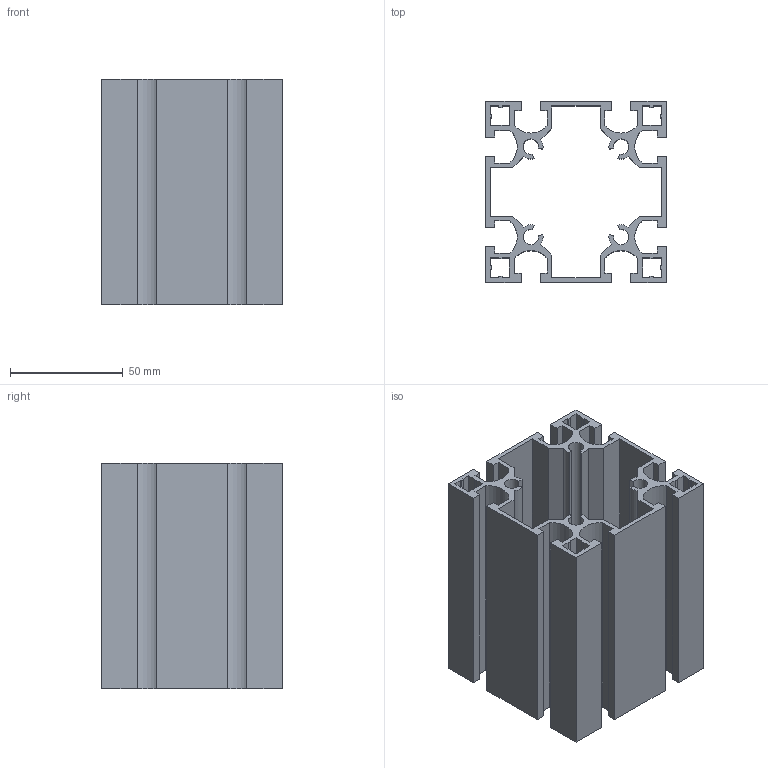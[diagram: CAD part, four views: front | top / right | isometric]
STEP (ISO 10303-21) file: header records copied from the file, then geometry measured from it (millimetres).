
FILE_DESCRIPTION(/* description */ ('Unknown'),/* implementation_level */ '2;1');
FILE_NAME(/* name */ 'NM8080A',/* time_stamp */ '2026-08-31T11:41:57+08:00',/* author */ ('Unknown'),/* organization */ ('Unknown'),/* preprocessor_version */ 'ST-DEVELOPER v16.7',/* originating_system */ 'DEX',/* authorisation */ $);
FILE_SCHEMA (('AUTOMOTIVE_DESIGN {1 0 10303 214 3 1 1}'));
Length unit declared in the file: millimetre
Products named in the file (1): 8080A
Bounding box: 80 x 80 x 100 mm (x, y, z)
Volume: 135282.7 mm3; surface area: 112890.8 mm2
Topology: 1 solids, 1 shells, 190 faces, 564 edges, 376 vertices
Faces by surface type: plane 154, cylinder 36
Entity records: 6350 total; most frequent: CARTESIAN_POINT 1131, ORIENTED_EDGE 1128, DIRECTION 1018, EDGE_CURVE 564, LINE 492, VECTOR 492, VERTEX_POINT 376, AXIS2_PLACEMENT_3D 263
